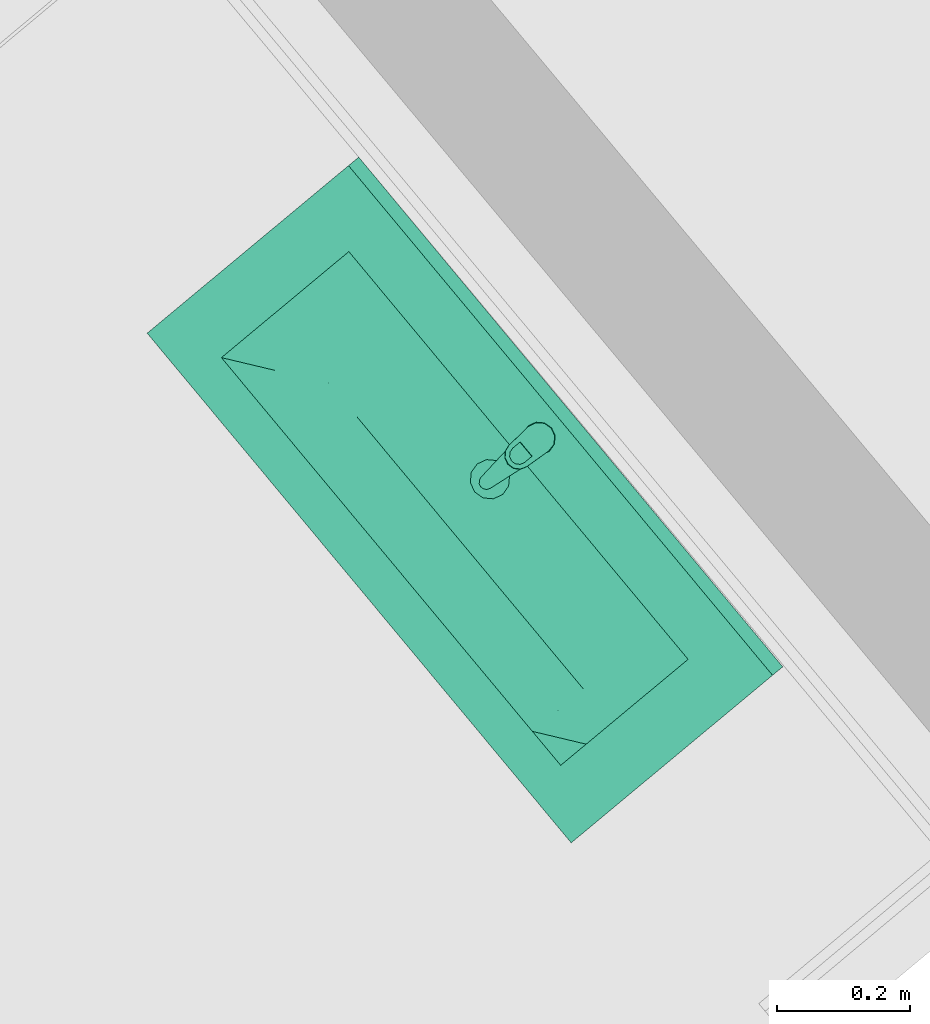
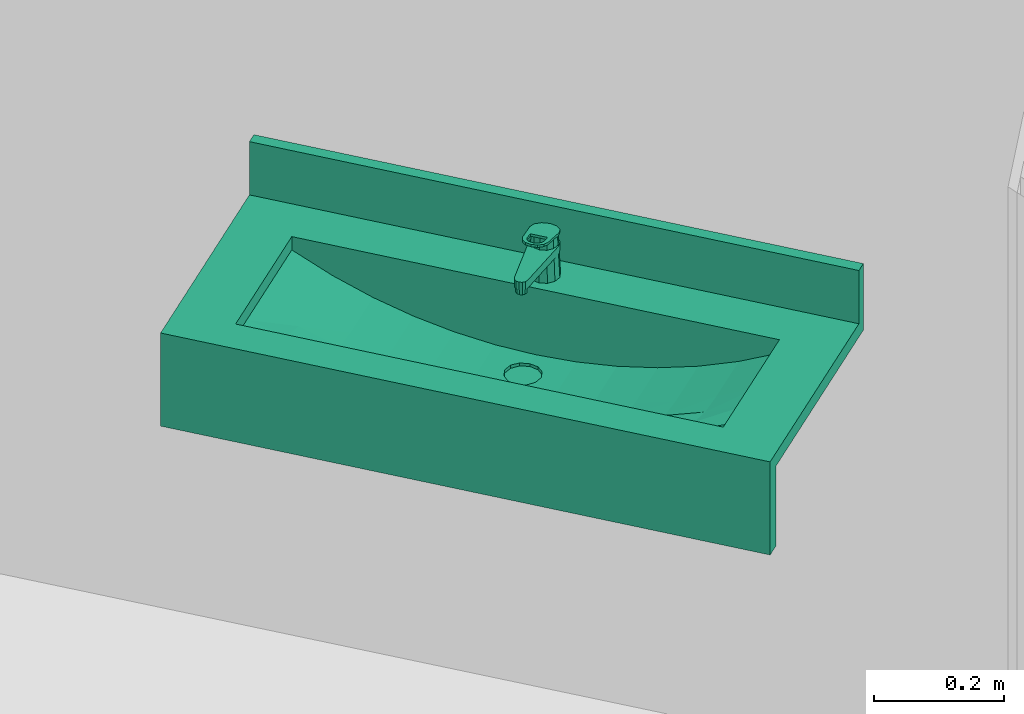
# One storey, part 47 of 53: 1 sanitary terminal.
"""IFC4 building model written with IfcOpenShell, lengths in metres."""

from ifc_helpers import new_model, entity, si_unit, converted_unit, derived_unit, direction, frame, origin_with_axes, place, context, subcontext, project, spatial, polygons, source, transform, mapped, type_object, element, save


model = new_model("IFC4")

# Units and contexts
model_context = context("Model", 3, precision=1e-05, world=origin_with_axes(), true_north=direction((0.0, 1.0)))
body_context = subcontext(model_context, "Body", "Model", "MODEL_VIEW")
ifc_project = project(units=[si_unit("LENGTHUNIT", "METRE"), si_unit("AREAUNIT", "SQUARE_METRE"), si_unit("VOLUMEUNIT", "CUBIC_METRE"), converted_unit("PLANEANGLEUNIT", "DEGREE", entity("IfcPlaneAngleMeasure", 0.0174532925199), si_unit("PLANEANGLEUNIT", "RADIAN"), dimensions=[0, 0, 0, 0, 0, 0, 0]), converted_unit("TIMEUNIT", "Year", entity("IfcTimeMeasure", 31556926.0), si_unit("TIMEUNIT", "SECOND"), dimensions=[0, 0, 1, 0, 0, 0, 0]), si_unit("MASSUNIT", "GRAM", prefix="KILO"), si_unit("THERMODYNAMICTEMPERATUREUNIT", "DEGREE_CELSIUS"), si_unit("LUMINOUSINTENSITYUNIT", "LUMEN"), si_unit("ENERGYUNIT", "JOULE", prefix="MEGA"), derived_unit("THERMALCONDUCTANCEUNIT", [(si_unit("POWERUNIT", "WATT"), 1), (si_unit("LENGTHUNIT", "METRE"), -1), (si_unit("THERMODYNAMICTEMPERATUREUNIT", "KELVIN"), -1)]), derived_unit("SPECIFICHEATCAPACITYUNIT", [(si_unit("ENERGYUNIT", "JOULE"), 1), (si_unit("MASSUNIT", "GRAM", prefix="KILO"), -1), (si_unit("THERMODYNAMICTEMPERATUREUNIT", "KELVIN"), -1)]), derived_unit("MASSDENSITYUNIT", [(si_unit("MASSUNIT", "GRAM", prefix="KILO"), 1), (si_unit("VOLUMEUNIT", "CUBIC_METRE"), -1)])], contexts=[model_context])

# Site, building, storey, space
site_placement = place(None, frame((-0.00153261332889, -0.00661245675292, 0.0), z_axis=(0.0, 0.0, 1.0), x_axis=(1.0, 0.0, 0.0)))
site = spatial("IfcSite", under=ifc_project, at=site_placement, Name="Gelände", CompositionType="ELEMENT")
building_placement = place(site_placement, origin_with_axes())
building = spatial("IfcBuilding", under=site, at=building_placement, Name="Gebäude", CompositionType="ELEMENT")
storey_placement = place(building_placement, frame((0.0, 0.0, 2.74), z_axis=(0.0, 0.0, 1.0), x_axis=(1.0, 0.0, 0.0)))
storey = spatial("IfcBuildingStorey", under=building, at=storey_placement, Name="OG1", CompositionType="ELEMENT", Elevation=2.74)
space_placement = place(storey_placement, frame((-6.42811534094, 22.1294415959, 0.22), z_axis=(0.0, 0.0, 1.0), x_axis=(0.64120952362, -0.767365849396, 0.0)))
space = spatial("IfcSpace", under=storey, at=space_placement, CompositionType="ELEMENT", PredefinedType="NOTDEFINED")

# Sanitary terminal
sanitary_terminal_type = type_object("IfcSanitaryTerminalType", Name="Waschbecken mehrfach 26", PredefinedType="NOTDEFINED")
shared_shape = source(origin_with_axes(), body_context, "Body", "Tessellation", [
    polygons([(-0.5, 0.0, 0.875), (0.5, 0.0, 0.875), (0.5, -0.415119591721, 0.875), (-0.5, -0.415119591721, 0.875), (-0.4, -0.35255979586, 0.875), (0.4, -0.35255979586, 0.875), (0.4, -0.10255979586, 0.875), (-0.4, -0.10255979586, 0.875), (-0.5, 0.0, 0.9), (0.5, 0.0, 0.9), (0.5, -0.415119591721, 0.9), (-0.5, -0.415119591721, 0.9), (-0.4, -0.35255979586, 0.9), (0.4, -0.35255979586, 0.9), (0.4, -0.10255979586, 0.9), (-0.4, -0.10255979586, 0.9)], [[[1, 2, 3, 4], [5, 6, 7, 8]], [[1, 9, 10, 2]], [[2, 10, 11, 3]], [[3, 11, 12, 4]], [[4, 12, 9, 1]], [[13, 14, 6, 5]], [[14, 15, 7, 6]], [[15, 16, 8, 7]], [[16, 13, 5, 8]], [[11, 10, 9, 12], [13, 16, 15, 14]]], closed=True),
    polygons([(-0.5, -0.02, 0.9), (0.5, -0.02, 0.9), (0.5, -0.02, 1.0), (-0.5, -0.02, 1.0), (-0.5, 0.0, 0.9), (0.5, 0.0, 0.9), (0.5, 0.0, 1.0), (-0.5, 0.0, 1.0)], [[[1, 2, 3, 4]], [[1, 5, 6, 2]], [[2, 6, 7, 3]], [[4, 3, 7, 8]], [[5, 1, 4, 8]], [[6, 5, 8, 7]]], closed=True),
    polygons([(-0.5, -0.415119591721, 0.725), (0.5, -0.415119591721, 0.725), (0.5, -0.415119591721, 0.875), (-0.5, -0.415119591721, 0.875), (-0.5, -0.390119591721, 0.725), (0.5, -0.390119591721, 0.725), (0.5, -0.390119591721, 0.875), (-0.5, -0.390119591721, 0.875)], [[[1, 2, 3, 4]], [[1, 5, 6, 2]], [[2, 6, 7, 3]], [[4, 3, 7, 8]], [[5, 1, 4, 8]], [[6, 5, 8, 7]]], closed=True),
    polygons([(0.0, -0.18855104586, 0.775), (-0.015, -0.184531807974, 0.775589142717), (-0.0259807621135, -0.17355104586, 0.776020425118), (-0.03, -0.15855104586, 0.776178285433), (-0.0283946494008, -0.15255979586, 0.776115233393), (-0.0666666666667, -0.15255979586, 0.777618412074), (-0.0666666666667, -0.20255979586, 0.777618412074), (0.0, -0.20255979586, 0.775), (-0.015, -0.132570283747, 0.775589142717), (0.0, -0.12855104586, 0.775), (0.0, -0.10255979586, 0.775), (-0.0666666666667, -0.10255979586, 0.777618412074), (-0.0259807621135, -0.14355104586, 0.776020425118), (-0.133333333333, -0.15255979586, 0.785522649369), (-0.133333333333, -0.20255979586, 0.785522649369), (-0.0666666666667, -0.25255979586, 0.787498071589), (0.0666666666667, -0.15255979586, 0.777618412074), (0.0283946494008, -0.15255979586, 0.776115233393), (0.03, -0.15855104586, 0.776178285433), (0.0259807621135, -0.17355104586, 0.776020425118), (0.015, -0.184531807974, 0.775589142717), (0.0666666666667, -0.20255979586, 0.777618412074), (0.015, -0.132570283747, 0.775589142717), (0.0259807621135, -0.14355104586, 0.776020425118), (0.0666666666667, -0.10255979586, 0.777618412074), (0.2, -0.10255979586, 0.798864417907), (0.266666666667, -0.10255979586, 0.81791333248), (0.333333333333, -0.10255979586, 0.843086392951), (0.4, -0.10255979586, 0.875), (-0.4, -0.10255979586, 0.875), (-0.333333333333, -0.10255979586, 0.843086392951), (-0.266666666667, -0.10255979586, 0.81791333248), (-0.2, -0.10255979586, 0.798864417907), (-0.133333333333, -0.10255979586, 0.785522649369), (0.133333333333, -0.10255979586, 0.785522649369), (-0.2, -0.15255979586, 0.798864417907), (-0.2, -0.20255979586, 0.798864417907), (-0.133333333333, -0.25255979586, 0.794673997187), (0.0, -0.25255979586, 0.785118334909), (0.133333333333, -0.20255979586, 0.785522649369), (0.133333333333, -0.15255979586, 0.785522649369), (0.266666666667, -0.15255979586, 0.81791333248), (0.2, -0.15255979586, 0.798864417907), (0.333333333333, -0.15255979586, 0.843086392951), (0.4, -0.15255979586, 0.875), (-0.333333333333, -0.15255979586, 0.843086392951), (-0.4, -0.15255979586, 0.875), (-0.266666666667, -0.15255979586, 0.81791333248), (-0.266666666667, -0.20255979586, 0.81791333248), (-0.2, -0.25255979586, 0.80675915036), (-0.0666666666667, -0.30255979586, 0.828578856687), (-0.133333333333, -0.30255979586, 0.832507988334), (0.0666666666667, -0.25255979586, 0.787498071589), (0.2, -0.20255979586, 0.798864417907), (0.266666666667, -0.20255979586, 0.81791333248), (0.333333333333, -0.20255979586, 0.843086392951), (0.4, -0.20255979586, 0.875), (0.4, -0.25255979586, 0.875), (0.4, -0.30255979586, 0.875), (0.4, -0.35255979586, 0.875), (-0.4, -0.25255979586, 0.875), (-0.4, -0.20255979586, 0.875), (-0.4, -0.35255979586, 0.875), (-0.4, -0.30255979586, 0.875), (-0.333333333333, -0.20255979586, 0.843086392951), (-0.266666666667, -0.25255979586, 0.823952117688), (-0.2, -0.30255979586, 0.839076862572), (0.0, -0.30255979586, 0.827271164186), (0.133333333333, -0.25255979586, 0.794673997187), (0.2, -0.25255979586, 0.80675915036), (0.266666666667, -0.25255979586, 0.823952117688), (0.333333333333, -0.25255979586, 0.846554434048), (0.333333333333, -0.30255979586, 0.860271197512), (0.333333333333, -0.35255979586, 0.875), (-0.333333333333, -0.30255979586, 0.860271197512), (-0.333333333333, -0.25255979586, 0.846554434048), (-0.266666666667, -0.30255979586, 0.848316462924), (-0.0666666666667, -0.35255979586, 0.875), (-0.133333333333, -0.35255979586, 0.875), (-0.2, -0.35255979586, 0.875), (0.0666666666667, -0.30255979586, 0.828578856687), (-0.266666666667, -0.35255979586, 0.875), (-0.333333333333, -0.35255979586, 0.875), (0.266666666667, -0.35255979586, 0.875), (0.2, -0.35255979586, 0.875), (0.133333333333, -0.35255979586, 0.875), (0.0666666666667, -0.35255979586, 0.875), (0.0, -0.35255979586, 0.875), (0.133333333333, -0.30255979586, 0.832507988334), (0.2, -0.30255979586, 0.839076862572), (0.266666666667, -0.30255979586, 0.848316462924)], [[[1, 2, 3, 4, 5, 6, 7, 8]], [[9, 10, 11, 12, 6, 5, 13]], [[7, 6, 14, 15]], [[16, 8, 7]], [[17, 18, 19, 20, 21, 1, 8, 22]], [[10, 23, 24, 18, 17, 25, 11]], [[26, 27, 28, 29, 30, 31, 32, 33, 34, 12, 11, 25, 35]], [[6, 12, 34, 14]], [[15, 14, 36, 37]], [[38, 7, 15]], [[16, 39, 8]], [[38, 16, 7]], [[39, 22, 8]], [[40, 41, 17, 22]], [[41, 35, 25, 17]], [[42, 27, 26, 43]], [[44, 28, 27, 42]], [[45, 29, 28, 44]], [[46, 31, 30, 47]], [[48, 32, 31, 46]], [[36, 33, 32, 48]], [[14, 34, 33, 36]], [[43, 26, 35, 41]], [[37, 36, 48, 49]], [[50, 15, 37]], [[50, 38, 15]], [[51, 39, 16]], [[52, 16, 38]], [[39, 53, 22]], [[54, 43, 41, 40]], [[53, 40, 22]], [[55, 42, 43, 54]], [[56, 44, 42, 55]], [[57, 58, 59, 60, 29, 45]], [[57, 45, 44, 56]], [[61, 62, 47, 30, 63, 64]], [[65, 46, 47, 62]], [[49, 48, 46, 65]], [[66, 37, 49]], [[66, 50, 37]], [[67, 38, 50]], [[51, 68, 39]], [[52, 51, 16]], [[67, 52, 38]], [[68, 53, 39]], [[69, 54, 40]], [[53, 69, 40]], [[70, 55, 54]], [[71, 56, 55]], [[72, 58, 57]], [[73, 59, 58]], [[74, 60, 59]], [[72, 57, 56]], [[61, 65, 62]], [[63, 75, 64]], [[64, 76, 61]], [[76, 49, 65]], [[76, 66, 49]], [[77, 50, 66]], [[77, 67, 50]], [[78, 68, 51]], [[79, 51, 52]], [[80, 52, 67]], [[68, 81, 53]], [[69, 70, 54]], [[81, 69, 53]], [[70, 71, 55]], [[71, 72, 56]], [[73, 58, 72]], [[74, 59, 73]], [[80, 82, 83, 63, 60, 74, 84, 85, 86, 87, 88, 78, 79]], [[61, 76, 65]], [[63, 83, 75]], [[64, 75, 76]], [[75, 66, 76]], [[75, 77, 66]], [[82, 67, 77]], [[78, 88, 68]], [[79, 78, 51]], [[80, 79, 52]], [[82, 80, 67]], [[88, 81, 68]], [[89, 70, 69]], [[81, 89, 69]], [[90, 71, 70]], [[91, 72, 71]], [[91, 73, 72]], [[84, 74, 73]], [[83, 82, 77]], [[85, 84, 91]], [[86, 85, 90]], [[87, 86, 89]], [[88, 87, 81]], [[83, 77, 75]], [[89, 90, 70]], [[87, 89, 81]], [[90, 91, 71]], [[84, 73, 91]], [[85, 91, 90]], [[86, 90, 89]]], closed=False),
    polygons([(0.03, -0.15855104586, 0.776178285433), (0.0259807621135, -0.17355104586, 0.776020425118), (0.0259807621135, -0.17355104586, 0.77), (0.03, -0.15855104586, 0.77), (0.015, -0.184531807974, 0.775589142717), (0.015, -0.184531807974, 0.77), (0.0, -0.12855104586, 0.77), (0.015, -0.132570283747, 0.77), (0.0259807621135, -0.14355104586, 0.77), (0.0, -0.18855104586, 0.77), (-0.015, -0.184531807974, 0.77), (-0.0259807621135, -0.17355104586, 0.77), (-0.03, -0.15855104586, 0.77), (-0.0259807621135, -0.14355104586, 0.77), (-0.015, -0.132570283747, 0.77), (0.0259807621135, -0.14355104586, 0.776020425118), (0.0, -0.18855104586, 0.775), (0.0, -0.12855104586, 0.775), (0.015, -0.132570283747, 0.775589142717), (-0.015, -0.184531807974, 0.775589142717), (-0.0259807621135, -0.17355104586, 0.776020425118), (-0.03, -0.15855104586, 0.776178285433), (-0.0259807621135, -0.14355104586, 0.776020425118), (-0.015, -0.132570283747, 0.775589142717)], [[[1, 2, 3, 4]], [[2, 5, 6, 3]], [[7, 8, 9, 4, 3, 6, 10, 11, 12, 13, 14, 15]], [[16, 1, 4, 9]], [[5, 17, 10, 6]], [[18, 19, 8, 7]], [[19, 16, 9, 8]], [[17, 20, 11, 10]], [[20, 21, 12, 11]], [[21, 22, 13, 12]], [[22, 23, 14, 13]], [[23, 24, 15, 14]], [[24, 18, 7, 15]]], closed=False),
    polygons([(0.0125, -0.0409091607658, 0.9), (0.0, -0.0375597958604, 0.9), (0.0, -0.0413578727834, 0.975961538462), (0.0105873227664, -0.0442220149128, 0.976507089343), (0.0216506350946, -0.0500597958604, 0.9), (0.025, -0.0625597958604, 0.9), (0.0216506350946, -0.0750597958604, 0.9), (0.0125, -0.084210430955, 0.9), (0.0, -0.0875597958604, 0.9), (-0.0125, -0.084210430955, 0.9), (-0.0216506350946, -0.0750597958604, 0.9), (-0.025, -0.0625597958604, 0.9), (-0.0216506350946, -0.0500597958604, 0.9), (-0.0125, -0.0409091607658, 0.9), (-0.0105873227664, -0.0442220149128, 0.976507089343), (-0.0182735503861, -0.0520095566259, 0.977990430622), (-0.021, -0.0625597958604, 0.98), (-0.0181003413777, -0.0730100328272, 0.981990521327), (-0.0104141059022, -0.0805975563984, 0.983435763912), (0.0, -0.0833616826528, 0.983962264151), (0.0104141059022, -0.0805975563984, 0.983435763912), (0.0181003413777, -0.0730100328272, 0.981990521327), (0.021, -0.0625597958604, 0.98), (0.0182735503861, -0.0520095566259, 0.977990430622)], [[[1, 2, 3, 4]], [[1, 5, 6, 7, 8, 9, 10, 11, 12, 13, 14, 2]], [[2, 14, 15, 3]], [[4, 3, 15, 16, 17, 18, 19, 20, 21, 22, 23, 24]], [[5, 1, 4, 24]], [[6, 5, 24, 23]], [[7, 6, 23, 22]], [[8, 7, 22, 21]], [[9, 8, 21, 20]], [[10, 9, 20, 19]], [[11, 10, 19, 18]], [[12, 11, 18, 17]], [[13, 12, 17, 16]], [[14, 13, 16, 15]]], closed=True),
    polygons([(0.009, -0.16555979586, 0.935), (0.00779422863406, -0.16105979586, 0.935), (0.00779422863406, -0.16105979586, 0.945), (0.009, -0.16555979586, 0.945), (0.00779422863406, -0.17005979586, 0.935), (0.0045, -0.173354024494, 0.935), (0.0, -0.17455979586, 0.935), (-0.0045, -0.173354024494, 0.935), (-0.00779422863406, -0.17005979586, 0.935), (-0.009, -0.16555979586, 0.935), (-0.00779422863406, -0.16105979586, 0.935), (-0.0045, -0.157765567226, 0.935), (0.0, -0.15655979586, 0.935), (0.0045, -0.157765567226, 0.935), (0.0045, -0.157765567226, 0.945), (0.0, -0.15655979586, 0.945), (-0.0045, -0.157765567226, 0.945), (-0.00779422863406, -0.16105979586, 0.945), (-0.009, -0.16555979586, 0.945), (-0.00779422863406, -0.17005979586, 0.945), (-0.0045, -0.173354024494, 0.945), (0.0, -0.17455979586, 0.945), (0.0045, -0.173354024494, 0.945), (0.00779422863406, -0.17005979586, 0.945)], [[[1, 2, 3, 4]], [[1, 5, 6, 7, 8, 9, 10, 11, 12, 13, 14, 2]], [[2, 14, 15, 3]], [[4, 3, 15, 16, 17, 18, 19, 20, 21, 22, 23, 24]], [[5, 1, 4, 24]], [[6, 5, 24, 23]], [[7, 6, 23, 22]], [[8, 7, 22, 21]], [[9, 8, 21, 20]], [[10, 9, 20, 19]], [[11, 10, 19, 18]], [[12, 11, 18, 17]], [[13, 12, 17, 16]], [[14, 13, 16, 15]]], closed=True),
    polygons([(-0.0128717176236, -0.0423034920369, 0.96), (-0.021727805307, -0.0523665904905, 0.96), (-0.0238054, -0.0656096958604, 0.96), (-0.010911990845, -0.166948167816, 0.96), (-0.00902887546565, -0.17184299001, 0.96), (-0.00509332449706, -0.175309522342, 0.96), (3.62679860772e-08, -0.176559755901, 0.96), (0.00509338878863, -0.175309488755, 0.96), (0.00902891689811, -0.171842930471, 0.96), (0.010912, -0.16694809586, 0.96), (0.0238053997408, -0.0656096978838, 0.96), (0.0217278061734, -0.0523665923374, 0.96), (0.0128717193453, -0.042303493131, 0.96), (1.01998896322e-09, -0.0385598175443, 0.96), (0.011, -0.0435072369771, 0.96), (0.0190525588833, -0.0515597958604, 0.96), (0.022, -0.0625597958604, 0.96), (0.0190525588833, -0.0735597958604, 0.96), (0.011, -0.0816123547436, 0.96), (0.0, -0.0845597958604, 0.96), (-0.011, -0.0816123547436, 0.96), (-0.0190525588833, -0.0735597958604, 0.96), (-0.022, -0.0625597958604, 0.96), (-0.0190525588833, -0.0515597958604, 0.96), (-0.011, -0.0435072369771, 0.96), (0.0, -0.0405597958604, 0.96), (-0.021727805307, -0.0523665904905, 0.945), (-0.0128717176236, -0.0423034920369, 0.945), (-0.0238054, -0.0656096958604, 0.945), (-0.010911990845, -0.166948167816, 0.945), (-0.00902887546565, -0.17184299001, 0.945), (-0.00509332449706, -0.175309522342, 0.945), (3.62679860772e-08, -0.176559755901, 0.945), (0.00509338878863, -0.175309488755, 0.945), (0.00902891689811, -0.171842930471, 0.945), (0.010912, -0.16694809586, 0.945), (0.0238053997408, -0.0656096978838, 0.945), (0.0217278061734, -0.0523665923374, 0.945), (0.0128717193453, -0.042303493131, 0.945), (1.01998896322e-09, -0.0385598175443, 0.945), (0.011375, -0.0428577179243, 0.945), (0.0197020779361, -0.0511847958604, 0.945), (0.02275, -0.0625597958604, 0.945), (0.0197020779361, -0.0739347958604, 0.945), (0.011375, -0.0822618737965, 0.945), (0.0, -0.0853097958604, 0.945), (-0.011375, -0.0822618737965, 0.945), (-0.0197020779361, -0.0739347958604, 0.945), (-0.02275, -0.0625597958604, 0.945), (-0.0197020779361, -0.0511847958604, 0.945), (-0.011375, -0.0428577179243, 0.945), (0.0, -0.0398097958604, 0.945)], [[[1, 2, 3, 4, 5, 6, 7, 8, 9, 10, 11, 12, 13, 14], [15, 16, 17, 18, 19, 20, 21, 22, 23, 24, 25, 26]], [[27, 2, 1, 28]], [[29, 3, 2, 27]], [[30, 4, 3, 29]], [[31, 5, 4, 30]], [[32, 6, 5, 31]], [[33, 7, 6, 32]], [[34, 8, 7, 33]], [[35, 9, 8, 34]], [[36, 10, 9, 35]], [[37, 11, 10, 36]], [[38, 12, 11, 37]], [[39, 13, 12, 38]], [[40, 14, 13, 39]], [[28, 1, 14, 40]], [[41, 42, 16, 15]], [[42, 43, 17, 16]], [[43, 44, 18, 17]], [[44, 45, 19, 18]], [[45, 46, 20, 19]], [[21, 20, 46, 47]], [[22, 21, 47, 48]], [[23, 22, 48, 49]], [[24, 23, 49, 50]], [[25, 24, 50, 51]], [[51, 52, 26, 25]], [[52, 41, 15, 26]], [[33, 32, 31, 30, 29, 27, 28, 40, 39, 38, 37, 36, 35, 34], [45, 44, 43, 42, 41, 52, 51, 50, 49, 48, 47, 46]]], closed=True),
    polygons([(0.023893, -0.0642523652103, 0.980322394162), (0.0212964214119, -0.0517850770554, 0.977947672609), (0.0212964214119, -0.0510366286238, 0.981877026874), (0.023893, -0.0635039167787, 0.984251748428), (0.0209459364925, -0.104396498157, 0.987968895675), (0.0176631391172, -0.114074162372, 0.989812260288), (0.0100614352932, -0.121023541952, 0.991135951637), (-4.42652908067e-07, -0.123545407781, 0.991616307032), (-0.0100622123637, -0.121023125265, 0.991135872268), (-0.0176636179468, -0.114073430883, 0.989812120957), (-0.020946, -0.104395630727, 0.987968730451), (-0.023893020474, -0.0642520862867, 0.980322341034), (-0.0212962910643, -0.0517848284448, 0.977947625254), (-0.0124716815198, -0.0424685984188, 0.976173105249), (1.42337785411e-07, -0.0390278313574, 0.975517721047), (0.0124719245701, -0.0424687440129, 0.976173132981), (0.014, -0.0881005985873, 0.984864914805), (-0.014, -0.0881005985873, 0.984864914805), (-0.014, -0.102916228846, 0.987686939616), (-0.012124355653, -0.109792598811, 0.988996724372), (-0.007, -0.114826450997, 0.989955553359), (0.0, -0.116668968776, 0.990306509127), (0.007, -0.114826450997, 0.989955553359), (0.012124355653, -0.109792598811, 0.988996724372), (0.014, -0.102916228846, 0.987686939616), (0.0124719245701, -0.0417202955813, 0.980102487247), (1.42337785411e-07, -0.0382793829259, 0.979447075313), (-0.0124716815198, -0.0417201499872, 0.980102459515), (-0.0212962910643, -0.0510363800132, 0.98187697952), (-0.023893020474, -0.0635036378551, 0.984251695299), (-0.020946, -0.103647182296, 0.991898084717), (-0.0176636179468, -0.113324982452, 0.993741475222), (-0.0100622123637, -0.120274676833, 0.995065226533), (-4.42652908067e-07, -0.122796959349, 0.995545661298), (0.0100614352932, -0.120275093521, 0.995065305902), (0.0176631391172, -0.11332571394, 0.993741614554), (0.0209459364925, -0.103648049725, 0.991898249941), (0.014, -0.0873521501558, 0.988794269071), (0.014, -0.102167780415, 0.991616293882), (0.012124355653, -0.10904415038, 0.992926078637), (0.007, -0.114078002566, 0.993884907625), (0.0, -0.115920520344, 0.994235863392), (-0.007, -0.114078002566, 0.993884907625), (-0.012124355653, -0.10904415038, 0.992926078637), (-0.014, -0.102167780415, 0.991616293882), (-0.014, -0.0873521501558, 0.988794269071)], [[[1, 2, 3, 4]], [[1, 5, 6, 7, 8, 9, 10, 11, 12, 13, 14, 15, 16, 2], [17, 18, 19, 20, 21, 22, 23, 24, 25]], [[2, 16, 26, 3]], [[4, 3, 26, 27, 28, 29, 30, 31, 32, 33, 34, 35, 36, 37], [38, 39, 40, 41, 42, 43, 44, 45, 46]], [[5, 1, 4, 37]], [[6, 5, 37, 36]], [[7, 6, 36, 35]], [[8, 7, 35, 34]], [[9, 8, 34, 33]], [[10, 9, 33, 32]], [[11, 10, 32, 31]], [[12, 11, 31, 30]], [[13, 12, 30, 29]], [[14, 13, 29, 28]], [[15, 14, 28, 27]], [[16, 15, 27, 26]], [[18, 17, 38, 46]], [[19, 18, 46, 45]], [[20, 19, 45, 44]], [[21, 20, 44, 43]], [[22, 21, 43, 42]], [[23, 22, 42, 41]], [[24, 23, 41, 40]], [[25, 24, 40, 39]], [[17, 25, 39, 38]]], closed=True),
])
sanitary_terminal_placement = place(space_placement, frame((2.33490818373, 1.94390730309, -0.075), z_axis=(0.0, 0.0, 1.0), x_axis=(0.999997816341, -0.0020898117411, 0.0)))
element("IfcSanitaryTerminal", 1, at=sanitary_terminal_placement, inside=space, type_object=sanitary_terminal_type, Name="Objekt-0009", PredefinedType="NOTDEFINED", context=body_context, shape_type="MappedRepresentation", body=[
    mapped(shared_shape, transform((0.0, 0.0, 0.0))),
])

save(model, "model.ifc")
